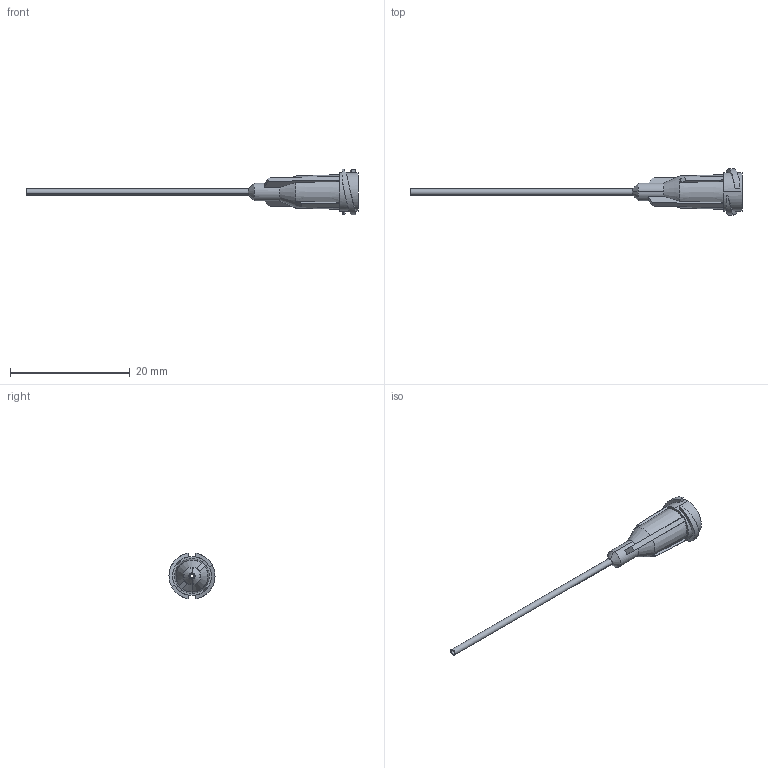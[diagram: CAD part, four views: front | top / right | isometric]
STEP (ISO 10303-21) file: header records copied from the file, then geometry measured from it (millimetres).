
FILE_DESCRIPTION (( 'STEP AP214' ), '1' );
FILE_NAME ('8001141_CUS.STEP', '2022-05-23T14:44:52', ( '' ), ( '' ), 'SwSTEP 2.0', 'SolidWorks 2020', '' );
FILE_SCHEMA (( 'AUTOMOTIVE_DESIGN' ));
Length unit declared in the file: millimetre
Products named in the file (1): 8001141_CUS
Bounding box: 55.47 x 7.7 x 7.59 mm (x, y, z)
Surface area: 741.1 mm2 (no closed solid volume)
Topology: 0 solids, 3 shells, 59 faces, 166 edges, 106 vertices
Faces by surface type: plane 33, cone 12, cylinder 8, bspline 6
Entity records: 2806 total; most frequent: CARTESIAN_POINT 694, ORIENTED_EDGE 302, DIRECTION 292, EDGE_CURVE 166, AXIS2_PLACEMENT_3D 110, VERTEX_POINT 106, LINE 72, VECTOR 72
